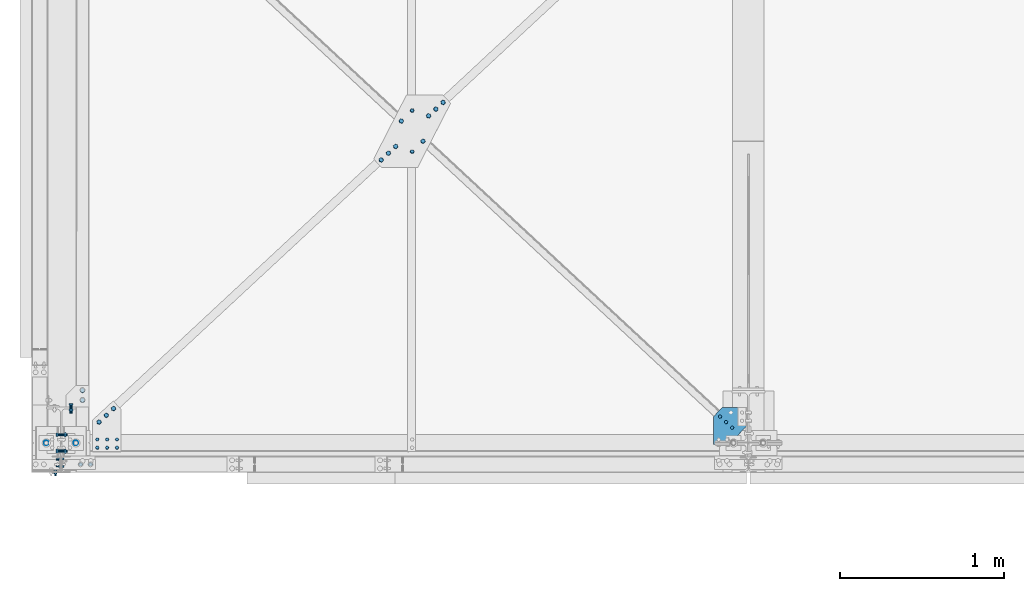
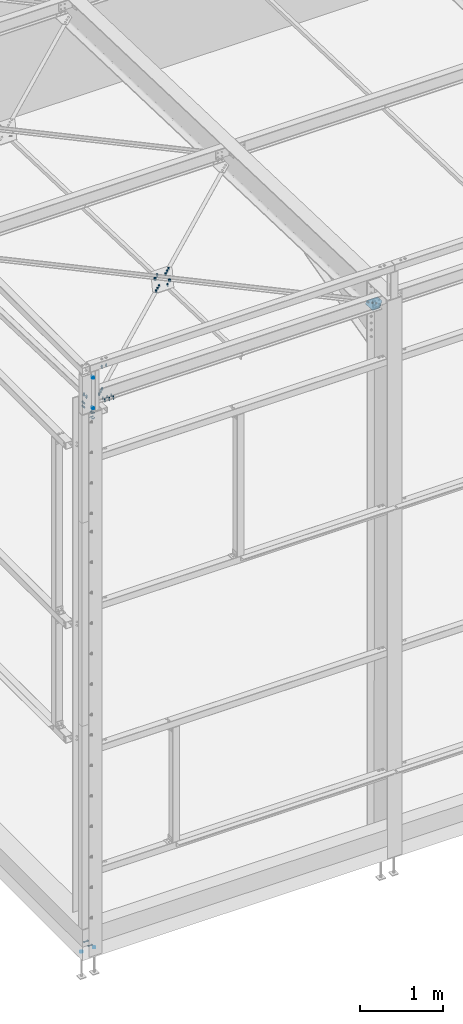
# One storey, part 141 of 362: 14 mechanical fasteners, 1 discrete accessory, 1 element without a shape of its own.
"""IFC2X3 building model written with IfcOpenShell, lengths in millimetres."""

from ifc_helpers import new_model, si_unit, frame, frame_2d, origin_with_axes, origin_2d_with_axis, place, context, subcontext, project, spatial, polyline, circle_curve, parameter, trimmed, segment, composite_curve, circle, outline, extrude, clip, halfspace, source, transform, mapped, material, type_object, element, aggregate, save


model = new_model("IFC2X3")

# Units and contexts
model_context = context("Model", 3, precision=1e-05, world=origin_with_axes())
body_context = subcontext(model_context, "Body", "Model", "MODEL_VIEW")
ifc_project = project(units=[si_unit("LENGTHUNIT", "METRE", prefix="MILLI"), si_unit("AREAUNIT", "SQUARE_METRE"), si_unit("VOLUMEUNIT", "CUBIC_METRE"), si_unit("MASSUNIT", "GRAM", prefix="KILO"), si_unit("TIMEUNIT", "SECOND"), si_unit("PLANEANGLEUNIT", "RADIAN"), si_unit("SOLIDANGLEUNIT", "STERADIAN"), si_unit("THERMODYNAMICTEMPERATUREUNIT", "DEGREE_CELSIUS"), si_unit("LUMINOUSINTENSITYUNIT", "LUMEN")], contexts=[model_context])

# Site, building, storey
site_placement = place(None, origin_with_axes())
site = spatial("IfcSite", under=ifc_project, at=site_placement, Name="Undefined", CompositionType="ELEMENT")
building_placement = place(site_placement, origin_with_axes())
building = spatial("IfcBuilding", under=site, at=building_placement, Name="Undefined", CompositionType="ELEMENT")
storey_placement = place(building_placement, origin_with_axes())
storey = spatial("IfcBuildingStorey", under=building, at=storey_placement, Name="Undefined", CompositionType="ELEMENT", Elevation=0.0)

# Mechanical fastener
ifc_material_1 = material(Name="8.8")
mechanical_fastener_type = type_object("IfcMechanicalFastenerType", Name="Bolt assembly")
shared_shape_1 = source(origin_with_axes(), body_context, "Body", "SweptSolid", [
    extrude(circle(Radius=7.0, at=origin_2d_with_axis()), frame((0.0, -3.09999932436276, 0.0), z_axis=(0.0, 1.0, 0.0), x_axis=(1.0, 0.0, 0.0)), (0.0, 0.0, 1.0), 6.1),
    extrude(circle(Radius=7.0, at=origin_2d_with_axis()), frame((0.0, -8.00253283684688, 0.0), z_axis=(0.0, 1.0, 0.0), x_axis=(1.0, 0.0, 0.0)), (0.0, 0.0, 1.0), 5.0),
    extrude(outline(polyline([(10.96965511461, 0.0), (5.484827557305, 9.50000000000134), (-5.484827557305, 9.50000000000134), (-10.96965511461, 0.0), (-5.484827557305, -9.50000000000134), (5.484827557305, -9.50000000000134), (10.96965511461, 0.0)])), frame((0.0, -16.1025328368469, 0.0), z_axis=(0.0, 1.0, 0.0), x_axis=(1.0, 0.0, 0.0)), (0.0, 0.0, 1.0), 8.0),
    extrude(circle(Radius=6.0, at=origin_2d_with_axis()), frame((0.0, -8.10253283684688, 0.0), z_axis=(0.0, 1.0, 0.0), x_axis=(1.0, 0.0, 0.0)), (0.0, 0.0, 1.0), 30.0),
    extrude(outline(polyline([(10.39230484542, 0.0), (5.19615242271, 9.00000000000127), (-5.19615242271, 9.00000000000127), (-10.39230484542, 0.0), (-5.19615242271, -9.00000000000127), (5.19615242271, -9.00000000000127), (10.39230484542, 0.0)])), frame((0.0, 3.00000067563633, 0.0), z_axis=(0.0, 1.0, 0.0), x_axis=(1.0, 0.0, 0.0)), (0.0, 0.0, 1.0), 10.8),
])
mechanical_fastener_1_placement = place(storey_placement, frame((4081.44125798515, 92.4228366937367, 7843.89354293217), z_axis=(-0.680838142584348, -0.732047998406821, 0.023772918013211), x_axis=(-0.732433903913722, 0.680479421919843, -0.0220982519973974)))
element("IfcMechanicalFastener", 1, at=mechanical_fastener_1_placement, inside=storey, type_object=mechanical_fastener_type, material=ifc_material_1, Name="Bolt assembly", NominalDiameter=12.0, NominalLength=30.0, context=body_context, shape_type="MappedRepresentation", body=[
    mapped(shared_shape_1, transform((0.0, 0.0, 0.0))),
    mapped(shared_shape_1, transform((49.9999999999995, 0.0, -3.63797880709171e-12))),
    mapped(shared_shape_1, transform((99.9999999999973, -1.63709046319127e-11, 7.73070496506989e-12))),
])

# Assembly, discrete accessory
assembly_placement = place(storey_placement, origin_with_axes())
assembly = element("IfcElementAssembly", 2, at=assembly_placement, inside=storey, Name="Steel Assembly", AssemblyPlace="NOTDEFINED", PredefinedType="RIGID_FRAME")
ifc_material_2 = material(Name="STEEL/S235J0")
discrete_accessory_type = type_object("IfcDiscreteAccessoryType", Name="GOUSSET")
discrete_accessory_placement = place(assembly_placement, frame((4172.00000000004, 102.205846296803, 7843.575843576), z_axis=(0.0, 0.0324574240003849, 0.999473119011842), x_axis=(-1.0, 0.0, 0.0)))
discrete_accessory = element("IfcDiscreteAccessory", 3, at=discrete_accessory_placement, type_object=discrete_accessory_type, material=ifc_material_2, Name="GOUSSET", ObjectType="BL225*6", context=body_context, shape_type="Clipping", body=[
    clip(clip(extrude(outline(polyline([(202.800000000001, -58.9439842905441), (153.016697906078, -112.500000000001), (0.0, -112.500000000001), (0.0, -4.43237285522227), (108.695158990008, 112.500000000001), (202.800000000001, 112.500000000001), (202.800000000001, -58.9439842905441)])), frame((0.0, 0.0, -3.0), z_axis=(0.0, 0.0, 1.0), x_axis=(1.0, 0.0, 0.0)), (0.0, 0.0, 1.0), 6.0), halfspace(frame((165.899053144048, -98.6413849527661, 2.99928702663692), z_axis=(0.732433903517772, -0.680838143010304, 0.0), x_axis=(0.680838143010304, 0.732433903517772, 2.41752786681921e-10)), False)), halfspace(frame((-103.025150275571, -115.265048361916, -3.00000000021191), z_axis=(-0.732433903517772, 0.680838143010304, 0.0), x_axis=(0.680838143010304, 0.732433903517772, 2.41752786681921e-10)), False)),
])
aggregate(assembly, [discrete_accessory])

# Mechanical fasteners
ifc_material_3 = material(Name="8.8-SB-ZINGUE")
shared_shape_2 = source(origin_with_axes(), body_context, "Body", "SweptSolid", [
    extrude(circle(Radius=7.0, at=origin_2d_with_axis()), frame((0.0, 9.40000163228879, 0.0), z_axis=(0.0, 1.0, 0.0), x_axis=(1.0, 0.0, 0.0)), (0.0, 0.0, 1.0), 4.1),
    extrude(circle(Radius=7.0, at=origin_2d_with_axis()), frame((0.0, 4.60000055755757, 0.0), z_axis=(0.0, 1.0, 0.0), x_axis=(1.0, 0.0, 0.0)), (0.0, 0.0, 1.0), 5.0),
    extrude(outline(polyline([(10.39230484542, 0.0), (5.19615242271, 9.00000000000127), (-5.19615242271, 9.00000000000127), (-10.39230484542, 0.0), (-5.19615242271, -9.00000000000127), (5.19615242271, -9.00000000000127), (10.39230484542, 0.0)])), frame((0.0, -3.41999944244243, 0.0), z_axis=(0.0, 1.0, 0.0), x_axis=(1.0, 0.0, 0.0)), (0.0, 0.0, 1.0), 7.92),
    extrude(circle(Radius=6.0, at=origin_2d_with_axis()), frame((0.0, 4.50000055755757, 0.0), z_axis=(0.0, 1.0, 0.0), x_axis=(1.0, 0.0, 0.0)), (0.0, 0.0, 1.0), 30.0),
    extrude(outline(polyline([(11.5008173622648, 0.0), (5.7504086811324, 9.96000000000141), (-5.7504086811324, 9.96000000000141), (-11.5008173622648, 0.0), (-5.7504086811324, -9.96000000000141), (5.7504086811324, -9.96000000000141), (11.5008173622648, 0.0)])), frame((0.0, 13.4999999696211, 0.0), z_axis=(0.0, 1.0, 0.0), x_axis=(1.0, 0.0, 0.0)), (0.0, 0.0, 1.0), 7.92),
])
mechanical_fastener_2_placement = place(storey_placement, frame((-34.99988495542, -166.499999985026, 8140.00301426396), z_axis=(0.0, 0.0, 1.0), x_axis=(-1.0, 0.0, 0.0)))
element("IfcMechanicalFastener", 4, at=mechanical_fastener_2_placement, inside=storey, type_object=mechanical_fastener_type, material=ifc_material_3, Name="Bolt assembly", NominalDiameter=12.0, NominalLength=30.0, context=body_context, shape_type="MappedRepresentation", body=[
    mapped(shared_shape_2, transform((0.0, 0.0, -225.0))),
    mapped(shared_shape_2, transform((0.0, 0.0, 225.0))),
])
shared_shape_3 = source(origin_with_axes(), body_context, "Body", "SweptSolid", [
    extrude(circle(Radius=7.0, at=origin_2d_with_axis()), frame((0.0, -0.0999426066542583, 0.0), z_axis=(0.0, 1.0, 0.0), x_axis=(1.0, 0.0, 0.0)), (0.0, 0.0, 1.0), 5.1),
    extrude(circle(Radius=7.0, at=origin_2d_with_axis()), frame((0.0, 0.100057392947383, 0.0), z_axis=(0.0, 1.0, 0.0), x_axis=(1.0, 0.0, 0.0)), (0.0, 0.0, 1.0), 6.0),
    extrude(outline(polyline([(10.39230484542, 0.0), (5.19615242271, 9.00000000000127), (-5.19615242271, 9.00000000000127), (-10.39230484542, 0.0), (-5.19615242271, -9.00000000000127), (5.19615242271, -9.00000000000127), (10.39230484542, 0.0)])), frame((0.0, -7.91994260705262, 0.0), z_axis=(0.0, 1.0, 0.0), x_axis=(1.0, 0.0, 0.0)), (0.0, 0.0, 1.0), 7.92),
    extrude(circle(Radius=6.0, at=origin_2d_with_axis()), frame((0.0, 6.26397177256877e-05, 0.0), z_axis=(0.0, 1.0, 0.0), x_axis=(1.0, 0.0, 0.0)), (0.0, 0.0, 1.0), 30.0),
    extrude(outline(polyline([(11.5008173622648, 0.0), (5.7504086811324, 9.96000000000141), (-5.7504086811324, 9.96000000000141), (-11.5008173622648, 0.0), (-5.7504086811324, -9.96000000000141), (5.7504086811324, -9.96000000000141), (11.5008173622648, 0.0)])), frame((0.0, 6.00005739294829, 0.0), z_axis=(0.0, 1.0, 0.0), x_axis=(1.0, 0.0, 0.0)), (0.0, 0.0, 1.0), 7.92),
])
mechanical_fastener_3_placement = place(storey_placement, frame((2135.00007400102, 1896.86424860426, 7790.29593327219), z_axis=(0.0, -0.999506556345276, 0.031410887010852), x_axis=(-1.0, 0.0, 0.0)))
element("IfcMechanicalFastener", 5, at=mechanical_fastener_3_placement, inside=storey, type_object=mechanical_fastener_type, material=ifc_material_3, Name="Bolt assembly", NominalDiameter=12.0, NominalLength=30.0, context=body_context, shape_type="MappedRepresentation", body=[
    mapped(shared_shape_3, transform((0.0, -1.17324816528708e-10, -124.999999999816))),
    mapped(shared_shape_3, transform((0.0, 1.17324816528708e-10, 124.999999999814))),
])
shared_shape_4 = source(origin_with_axes(), body_context, "Body", "SweptSolid", [
    extrude(circle(Radius=9.0, at=origin_2d_with_axis()), frame((0.0, 5.90933357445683, 0.0), z_axis=(0.0, 1.0, 0.0), x_axis=(1.0, 0.0, 0.0)), (0.0, 0.0, 1.0), 5.1),
    extrude(circle(Radius=9.0, at=origin_2d_with_axis()), frame((0.0, 0.1, 0.0), z_axis=(0.0, 1.0, 0.0), x_axis=(1.0, 0.0, 0.0)), (0.0, 0.0, 1.0), 6.0),
    extrude(outline(polyline([(13.85640646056, 0.0), (6.92820323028, 12.0000000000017), (-6.92820323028, 12.0000000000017), (-13.85640646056, 0.0), (-6.92820323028, -12.0000000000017), (6.92820323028, -12.0000000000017), (13.85640646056, 0.0)])), frame((0.0, -10.5600019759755, 0.0), z_axis=(0.0, 1.0, 0.0), x_axis=(1.0, 0.0, 0.0)), (0.0, 0.0, 1.0), 10.56),
    extrude(circle(Radius=8.0, at=origin_2d_with_axis()), frame((0.0, 0.0, 0.0), z_axis=(0.0, 1.0, 0.0), x_axis=(1.0, 0.0, 0.0)), (0.0, 0.0, 1.0), 30.0),
    extrude(outline(polyline([(15.3344231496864, 0.0), (7.6672115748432, 13.2800000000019), (-7.6672115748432, 13.2800000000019), (-15.3344231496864, 0.0), (-7.6672115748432, -13.2800000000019), (7.6672115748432, -13.2800000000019), (15.3344231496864, 0.0)])), frame((0.0, 11.0093335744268, 0.0), z_axis=(0.0, 1.0, 0.0), x_axis=(1.0, 0.0, 0.0)), (0.0, 0.0, 1.0), 10.56),
])
mechanical_fastener_4_placement = place(storey_placement, frame((2235.26634015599, 1990.02123399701, 7787.36831426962), z_axis=(-0.680837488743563, 0.73207308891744, -0.0230066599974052), x_axis=(0.732434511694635, 0.680501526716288, -0.0213859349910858)))
element("IfcMechanicalFastener", 6, at=mechanical_fastener_4_placement, inside=storey, type_object=mechanical_fastener_type, material=ifc_material_3, Name="Bolt assembly", NominalDiameter=16.0, NominalLength=30.0, context=body_context, shape_type="MappedRepresentation", body=[
    mapped(shared_shape_4, transform((0.0, 0.0, 0.0))),
    mapped(shared_shape_4, transform((60.0, 0.0, 0.0))),
    mapped(shared_shape_4, transform((120.0, 0.0, 0.0))),
])
shared_shape_5 = source(origin_with_axes(), body_context, "Body", "SweptSolid", [
    extrude(circle(Radius=9.0, at=origin_2d_with_axis()), frame((0.0, -4.89272045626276, 0.0), z_axis=(0.0, 1.0, 0.0), x_axis=(1.0, 0.0, 0.0)), (0.0, 0.0, 1.0), 5.0),
    extrude(circle(Radius=9.0, at=origin_2d_with_axis()), frame((0.0, -0.100011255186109, 0.0), z_axis=(0.0, 1.0, 0.0), x_axis=(1.0, 0.0, 0.0)), (0.0, 0.0, 1.0), 6.1),
    extrude(outline(polyline([(13.85640646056, 0.0), (6.92820323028, 12.0000000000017), (-6.92820323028, 12.0000000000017), (-13.85640646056, 0.0), (-6.92820323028, -12.0000000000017), (6.92820323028, -12.0000000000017), (13.85640646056, 0.0)])), frame((0.0, -15.5527204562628, 0.0), z_axis=(0.0, 1.0, 0.0), x_axis=(1.0, 0.0, 0.0)), (0.0, 0.0, 1.0), 10.56),
    extrude(circle(Radius=8.0, at=origin_2d_with_axis()), frame((0.0, -4.99272045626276, 0.0), z_axis=(0.0, 1.0, 0.0), x_axis=(1.0, 0.0, 0.0)), (0.0, 0.0, 1.0), 30.0),
    extrude(outline(polyline([(15.3344231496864, 0.0), (7.6672115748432, 13.2800000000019), (-7.6672115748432, 13.2800000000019), (-15.3344231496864, 0.0), (-7.6672115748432, -13.2800000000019), (7.6672115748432, -13.2800000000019), (15.3344231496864, 0.0)])), frame((0.0, 6.0, 0.0), z_axis=(0.0, 1.0, 0.0), x_axis=(1.0, 0.0, 0.0)), (0.0, 0.0, 1.0), 10.56),
])
mechanical_fastener_5_placement = place(storey_placement, frame((2135.00000157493, 1896.86423725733, 7790.29593364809), z_axis=(-0.732427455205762, 0.680509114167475, -0.0213861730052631), x_axis=(0.680845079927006, 0.732066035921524, -0.0230064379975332)))
element("IfcMechanicalFastener", 7, at=mechanical_fastener_5_placement, inside=storey, type_object=mechanical_fastener_type, material=ifc_material_3, Name="Bolt assembly", NominalDiameter=16.0, NominalLength=30.0, context=body_context, shape_type="MappedRepresentation", body=[
    mapped(shared_shape_5, transform((-8.00355337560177e-11, 1.57342583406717e-10, -90.000000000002))),
    mapped(shared_shape_5, transform((8.36735125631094e-11, -1.5825207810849e-10, 90.0))),
])
shared_shape_6 = source(origin_with_axes(), body_context, "Body", "SweptSolid", [
    extrude(circle(Radius=9.0, at=origin_2d_with_axis()), frame((0.0, 5.90918980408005, 0.0), z_axis=(0.0, 1.0, 0.0), x_axis=(1.0, 0.0, 0.0)), (0.0, 0.0, 1.0), 5.1),
    extrude(circle(Radius=9.0, at=origin_2d_with_axis()), frame((0.0, 0.1, 0.0), z_axis=(0.0, 1.0, 0.0), x_axis=(1.0, 0.0, 0.0)), (0.0, 0.0, 1.0), 6.0),
    extrude(outline(polyline([(13.85640646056, 0.0), (6.92820323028, 12.0000000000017), (-6.92820323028, 12.0000000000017), (-13.85640646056, 0.0), (-6.92820323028, -12.0000000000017), (6.92820323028, -12.0000000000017), (13.85640646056, 0.0)])), frame((0.0, -10.5600019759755, 0.0), z_axis=(0.0, 1.0, 0.0), x_axis=(1.0, 0.0, 0.0)), (0.0, 0.0, 1.0), 10.56),
    extrude(circle(Radius=8.0, at=origin_2d_with_axis()), frame((0.0, 0.0, 0.0), z_axis=(0.0, 1.0, 0.0), x_axis=(1.0, 0.0, 0.0)), (0.0, 0.0, 1.0), 30.0),
    extrude(outline(polyline([(15.3344231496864, 0.0), (7.6672115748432, 13.2800000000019), (-7.6672115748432, 13.2800000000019), (-15.3344231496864, 0.0), (-7.6672115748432, -13.2800000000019), (7.6672115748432, -13.2800000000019), (15.3344231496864, 0.0)])), frame((0.0, 11.0091898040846, 0.0), z_axis=(0.0, 1.0, 0.0), x_axis=(1.0, 0.0, 0.0)), (0.0, 0.0, 1.0), 10.56),
])
mechanical_fastener_6_placement = place(storey_placement, frame((2034.73366298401, 1803.70724054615, 7793.22355302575), z_axis=(0.680837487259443, -0.732073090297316, 0.0230066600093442), x_axis=(-0.732434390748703, -0.68050165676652, 0.0213859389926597)))
element("IfcMechanicalFastener", 8, at=mechanical_fastener_6_placement, inside=storey, type_object=mechanical_fastener_type, material=ifc_material_3, Name="Bolt assembly", NominalDiameter=16.0, NominalLength=30.0, context=body_context, shape_type="MappedRepresentation", body=[
    mapped(shared_shape_6, transform((0.0, 0.0, 0.0))),
    mapped(shared_shape_6, transform((60.0, 0.0, 0.0))),
    mapped(shared_shape_6, transform((120.0, 0.0, 0.0))),
])
shared_shape_7 = source(origin_with_axes(), body_context, "Body", "SweptSolid", [
    extrude(circle(Radius=7.0, at=origin_2d_with_axis()), frame((0.0, -8.39309251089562, 0.0), z_axis=(0.0, 1.0, 0.0), x_axis=(1.0, 0.0, 0.0)), (0.0, 0.0, 1.0), 8.5),
    extrude(circle(Radius=7.0, at=origin_2d_with_axis()), frame((0.0, -0.100011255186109, 0.0), z_axis=(0.0, 1.0, 0.0), x_axis=(1.0, 0.0, 0.0)), (0.0, 0.0, 1.0), 6.1),
    extrude(outline(polyline([(10.39230484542, 0.0), (5.19615242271, 9.00000000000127), (-5.19615242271, 9.00000000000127), (-10.39230484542, 0.0), (-5.19615242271, -9.00000000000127), (5.19615242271, -9.00000000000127), (10.39230484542, 0.0)])), frame((0.0, -16.4130925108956, 0.0), z_axis=(0.0, 1.0, 0.0), x_axis=(1.0, 0.0, 0.0)), (0.0, 0.0, 1.0), 7.92),
    extrude(circle(Radius=6.0, at=origin_2d_with_axis()), frame((0.0, -8.49309251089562, 0.0), z_axis=(0.0, 1.0, 0.0), x_axis=(1.0, 0.0, 0.0)), (0.0, 0.0, 1.0), 38.49),
    extrude(outline(polyline([(11.5008173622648, 0.0), (5.7504086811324, 9.96000000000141), (-5.7504086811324, 9.96000000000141), (-11.5008173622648, 0.0), (-5.7504086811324, -9.96000000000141), (5.7504086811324, -9.96000000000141), (11.5008173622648, 0.0)])), frame((0.0, 6.0, 0.0), z_axis=(0.0, 1.0, 0.0), x_axis=(1.0, 0.0, 0.0)), (0.0, 0.0, 1.0), 7.92),
])
mechanical_fastener_7_placement = place(storey_placement, frame((220.000002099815, -3.14090523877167, 7850.0068739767), z_axis=(3.14103090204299e-11, 0.999506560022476, -0.0314107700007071), x_axis=(1.0, 0.0, 0.0)))
element("IfcMechanicalFastener", 9, at=mechanical_fastener_7_placement, inside=storey, type_object=mechanical_fastener_type, material=ifc_material_3, Name="Bolt assembly", NominalDiameter=12.0, NominalLength=38.4931030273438, context=body_context, shape_type="MappedRepresentation", body=[
    mapped(shared_shape_7, transform((0.0, 0.0, 25.0))),
    mapped(shared_shape_7, transform((60.00000000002, -1.00044417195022e-11, 24.9999999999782))),
    mapped(shared_shape_7, transform((120.00000000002, -1.90993887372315e-11, 24.9999999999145))),
    mapped(shared_shape_7, transform((0.0, 0.0, -25.0))),
    mapped(shared_shape_7, transform((59.9999999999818, -8.18545231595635e-12, -25.0000000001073))),
    mapped(shared_shape_7, transform((119.999999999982, -1.72803993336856e-11, -25.0000000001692))),
])
shared_shape_8 = source(origin_with_axes(), body_context, "Body", "SweptSolid", [
    extrude(circle(Radius=9.0, at=origin_2d_with_axis()), frame((0.0, 2.90445197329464, 0.0), z_axis=(0.0, 1.0, 0.0), x_axis=(1.0, 0.0, 0.0)), (0.0, 0.0, 1.0), 5.1),
    extrude(circle(Radius=9.0, at=origin_2d_with_axis()), frame((0.0, -2.90345384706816, 0.0), z_axis=(0.0, 1.0, 0.0), x_axis=(1.0, 0.0, 0.0)), (0.0, 0.0, 1.0), 6.0),
    extrude(outline(polyline([(13.85640646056, 0.0), (6.92820323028, 12.0000000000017), (-6.92820323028, 12.0000000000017), (-13.85640646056, 0.0), (-6.92820323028, -12.0000000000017), (6.92820323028, -12.0000000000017), (13.85640646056, 0.0)])), frame((0.0, -13.5634538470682, 0.0), z_axis=(0.0, 1.0, 0.0), x_axis=(1.0, 0.0, 0.0)), (0.0, 0.0, 1.0), 10.56),
    extrude(circle(Radius=8.0, at=origin_2d_with_axis()), frame((0.0, -3.00345384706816, 0.0), z_axis=(0.0, 1.0, 0.0), x_axis=(1.0, 0.0, 0.0)), (0.0, 0.0, 1.0), 30.0),
    extrude(outline(polyline([(15.3344231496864, 0.0), (7.6672115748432, 13.2800000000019), (-7.6672115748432, 13.2800000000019), (-15.3344231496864, 0.0), (-7.6672115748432, -13.2800000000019), (7.6672115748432, -13.2800000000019), (15.3344231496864, 0.0)])), frame((0.0, 8.00445197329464, 0.0), z_axis=(0.0, 1.0, 0.0), x_axis=(1.0, 0.0, 0.0)), (0.0, 0.0, 1.0), 10.56),
])
mechanical_fastener_8_placement = place(storey_placement, frame((230.964192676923, 127.733116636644, 7842.88899565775), z_axis=(-0.680838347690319, 0.732072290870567, -0.0230066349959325), x_axis=(0.732433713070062, 0.680502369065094, -0.0213864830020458)))
element("IfcMechanicalFastener", 10, at=mechanical_fastener_8_placement, inside=storey, type_object=mechanical_fastener_type, material=ifc_material_3, Name="Bolt assembly", NominalDiameter=16.0, NominalLength=30.0, context=body_context, shape_type="MappedRepresentation", body=[
    mapped(shared_shape_8, transform((0.0, 0.0, 0.0))),
    mapped(shared_shape_8, transform((60.0, 0.0, 0.0))),
    mapped(shared_shape_8, transform((120.0, 0.0, 0.0))),
])
shared_shape_9 = source(origin_with_axes(), body_context, "Body", "SweptSolid", [
    extrude(circle(Radius=9.0, at=origin_2d_with_axis()), frame((0.0, -0.100011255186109, 0.0), z_axis=(0.0, 1.0, 0.0), x_axis=(1.0, 0.0, 0.0)), (0.0, 0.0, 1.0), 13.6),
    extrude(circle(Radius=9.0, at=origin_2d_with_axis()), frame((0.0, -9.9, 0.0), z_axis=(0.0, 1.0, 0.0), x_axis=(1.0, 0.0, 0.0)), (0.0, 0.0, 1.0), 10.0),
    extrude(outline(polyline([(13.85640646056, 0.0), (6.92820323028, 12.0000000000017), (-6.92820323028, 12.0000000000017), (-13.85640646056, 0.0), (-6.92820323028, -12.0000000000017), (6.92820323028, -12.0000000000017), (13.85640646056, 0.0)])), frame((0.0, -20.5600000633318, 0.0), z_axis=(0.0, 1.0, 0.0), x_axis=(1.0, 0.0, 0.0)), (0.0, 0.0, 1.0), 10.56),
    extrude(circle(Radius=8.0, at=origin_2d_with_axis()), frame((0.0, -10.0000010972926, 0.0), z_axis=(0.0, 1.0, 0.0), x_axis=(1.0, 0.0, 0.0)), (0.0, 0.0, 1.0), 50.0),
    extrude(outline(polyline([(15.3344231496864, 0.0), (7.6672115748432, 13.2800000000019), (-7.6672115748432, 13.2800000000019), (-15.3344231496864, 0.0), (-7.6672115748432, -13.2800000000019), (7.6672115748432, -13.2800000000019), (15.3344231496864, 0.0)])), frame((0.0, 13.4999999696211, 0.0), z_axis=(0.0, 1.0, 0.0), x_axis=(1.0, 0.0, 0.0)), (0.0, 0.0, 1.0), 10.56),
])
mechanical_fastener_9_placement = place(storey_placement, frame((60.0, 220.000000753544, 7662.9479844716), z_axis=(1.0, 0.0, 0.0), x_axis=(0.0, 0.0, 1.0)))
element("IfcMechanicalFastener", 11, at=mechanical_fastener_9_placement, inside=storey, type_object=mechanical_fastener_type, material=ifc_material_3, Name="Bolt assembly", NominalDiameter=16.0, NominalLength=50.0, context=body_context, shape_type="MappedRepresentation", body=[
    mapped(shared_shape_9, transform((0.0, 0.0, 0.0))),
    mapped(shared_shape_9, transform((60.0, 0.0, 0.0))),
])
shared_shape_10 = source(origin_with_axes(), body_context, "Body", "SweptSolid", [
    extrude(circle(Radius=9.0, at=origin_2d_with_axis()), frame((0.0, -3.89999843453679, 0.0), z_axis=(0.0, 1.0, 0.0), x_axis=(1.0, 0.0, 0.0)), (0.0, 0.0, 1.0), 4.0),
    extrude(circle(Radius=9.0, at=origin_2d_with_axis()), frame((0.0, -0.100011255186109, 0.0), z_axis=(0.0, 1.0, 0.0), x_axis=(1.0, 0.0, 0.0)), (0.0, 0.0, 1.0), 10.1),
    extrude(outline(polyline([(13.85640646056, 0.0), (6.92820323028, 12.0000000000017), (-6.92820323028, 12.0000000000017), (-13.85640646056, 0.0), (-6.92820323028, -12.0000000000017), (6.92820323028, -12.0000000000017), (13.85640646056, 0.0)])), frame((0.0, -14.560000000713, 0.0), z_axis=(0.0, 1.0, 0.0), x_axis=(1.0, 0.0, 0.0)), (0.0, 0.0, 1.0), 10.56),
    extrude(circle(Radius=8.0, at=origin_2d_with_axis()), frame((0.0, -3.99999923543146, 0.0), z_axis=(0.0, 1.0, 0.0), x_axis=(1.0, 0.0, 0.0)), (0.0, 0.0, 1.0), 40.0),
    extrude(outline(polyline([(15.3344231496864, 0.0), (7.6672115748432, 13.2800000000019), (-7.6672115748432, 13.2800000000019), (-15.3344231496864, 0.0), (-7.6672115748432, -13.2800000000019), (7.6672115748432, -13.2800000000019), (15.3344231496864, 0.0)])), frame((0.0, 10.0000000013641, 0.0), z_axis=(0.0, 1.0, 0.0), x_axis=(1.0, 0.0, 0.0)), (0.0, 0.0, 1.0), 10.56),
])
mechanical_fastener_10_placement = place(storey_placement, frame((130.0, 319.950656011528, 7759.80691069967), z_axis=(1.0, 0.0, 0.0), x_axis=(0.0, -0.999506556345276, 0.031410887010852)))
element("IfcMechanicalFastener", 12, at=mechanical_fastener_10_placement, inside=storey, type_object=mechanical_fastener_type, material=ifc_material_3, Name="Bolt assembly", NominalDiameter=16.0, NominalLength=40.0, context=body_context, shape_type="MappedRepresentation", body=[
    mapped(shared_shape_10, transform((0.0, 0.0, 0.0))),
    mapped(shared_shape_10, transform((60.0, 0.0, 0.0))),
])
shared_shape_11 = source(origin_with_axes(), body_context, "Body", "SweptSolid", [
    extrude(circle(Radius=7.0, at=origin_2d_with_axis()), frame((0.0, -3.89999843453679, 0.0), z_axis=(0.0, 1.0, 0.0), x_axis=(1.0, 0.0, 0.0)), (0.0, 0.0, 1.0), 4.0),
    extrude(outline(composite_curve([segment(polyline([(-7.0, 7.0), (7.0, 7.0)]), True, "CONTINUOUS"), segment(trimmed(circle_curve(frame_2d((7.0, 0.0), x_axis=(0.0, 1.0)), 7.0), [parameter(0.0)], [parameter(3.14159265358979)], False, "PARAMETER"), True, "CONTINUOUS"), segment(polyline([(7.0, -7.0), (-7.0, -7.0)]), True, "CONTINUOUS"), segment(trimmed(circle_curve(frame_2d((-7.0, 0.0), x_axis=(0.0, -1.0)), 7.0), [parameter(0.0)], [parameter(3.14159265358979)], False, "PARAMETER"), True, "DISCONTINUOUS")], self_intersect=False)), frame((0.0, -0.100011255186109, 0.0), z_axis=(0.0, 1.0, 0.0), x_axis=(1.0, 0.0, 0.0)), (0.0, 0.0, 1.0), 10.1),
    extrude(outline(polyline([(10.39230484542, 0.0), (5.19615242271, 9.00000000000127), (-5.19615242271, 9.00000000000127), (-10.39230484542, 0.0), (-5.19615242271, -9.00000000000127), (5.19615242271, -9.00000000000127), (10.39230484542, 0.0)])), frame((0.0, -11.9199984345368, 0.0), z_axis=(0.0, 1.0, 0.0), x_axis=(1.0, 0.0, 0.0)), (0.0, 0.0, 1.0), 7.92),
    extrude(circle(Radius=6.0, at=origin_2d_with_axis()), frame((0.0, -3.99999923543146, 0.0), z_axis=(0.0, 1.0, 0.0), x_axis=(1.0, 0.0, 0.0)), (0.0, 0.0, 1.0), 40.0),
    extrude(circle(Radius=10.8, at=origin_2d_with_axis()), frame((0.0, 10.0000000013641, 0.0), z_axis=(0.0, 1.0, 0.0), x_axis=(1.0, 0.0, 0.0)), (0.0, 0.0, 1.0), 3.96),
    extrude(outline(polyline([(11.5008173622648, 0.0), (5.7504086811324, 9.96000000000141), (-5.7504086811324, 9.96000000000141), (-11.5008173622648, 0.0), (-5.7504086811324, -9.96000000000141), (5.7504086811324, -9.96000000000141), (11.5008173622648, 0.0)])), frame((0.0, 13.96, 0.0), z_axis=(0.0, 1.0, 0.0), x_axis=(1.0, 0.0, 0.0)), (0.0, 0.0, 1.0), 7.92),
])
mechanical_fastener_11_placement = place(storey_placement, frame((179.000003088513, -130.000005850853, 8450.0), z_axis=(0.0, -1.0, 0.0), x_axis=(-1.0, 0.0, 0.0)))
element("IfcMechanicalFastener", 13, at=mechanical_fastener_11_placement, inside=storey, type_object=mechanical_fastener_type, material=ifc_material_3, Name="Bolt assembly", NominalDiameter=12.0, NominalLength=40.0, context=body_context, shape_type="MappedRepresentation", body=[
    mapped(shared_shape_11, transform((0.0, 0.0, 0.0))),
    mapped(shared_shape_11, transform((60.0, 0.0, 0.0))),
])
shared_shape_12 = source(origin_with_axes(), body_context, "Body", "SweptSolid", [
    extrude(circle(Radius=7.0, at=origin_2d_with_axis()), frame((0.0, -4.3000001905, 0.0), z_axis=(0.0, 1.0, 0.0), x_axis=(1.0, 0.0, 0.0)), (0.0, 0.0, 1.0), 8.6),
    extrude(circle(Radius=7.0, at=origin_2d_with_axis()), frame((0.0, -8.19999316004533, 0.0), z_axis=(0.0, 1.0, 0.0), x_axis=(1.0, 0.0, 0.0)), (0.0, 0.0, 1.0), 4.0),
    extrude(circle(Radius=7.0, at=origin_2d_with_axis()), frame((0.0, 4.20000787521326, 0.0), z_axis=(0.0, 1.0, 0.0), x_axis=(1.0, 0.0, 0.0)), (0.0, 0.0, 1.0), 4.1),
    extrude(outline(polyline([(10.39230484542, 0.0), (5.19615242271, 9.00000000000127), (-5.19615242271, 9.00000000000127), (-10.39230484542, 0.0), (-5.19615242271, -9.00000000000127), (5.19615242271, -9.00000000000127), (10.39230484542, 0.0)])), frame((0.0, -16.2199931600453, 0.0), z_axis=(0.0, 1.0, 0.0), x_axis=(1.0, 0.0, 0.0)), (0.0, 0.0, 1.0), 7.92),
    extrude(circle(Radius=6.0, at=origin_2d_with_axis()), frame((0.0, -8.29999554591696, 0.0), z_axis=(0.0, 1.0, 0.0), x_axis=(1.0, 0.0, 0.0)), (0.0, 0.0, 1.0), 40.0),
    extrude(outline(polyline([(11.5008173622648, 0.0), (5.7504086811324, 9.96000000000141), (-5.7504086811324, 9.96000000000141), (-11.5008173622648, 0.0), (-5.7504086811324, -9.96000000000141), (5.7504086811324, -9.96000000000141), (11.5008173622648, 0.0)])), frame((0.0, 8.30000787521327, 0.0), z_axis=(0.0, 1.0, 0.0), x_axis=(1.0, 0.0, 0.0)), (0.0, 0.0, 1.0), 7.92),
])
mechanical_fastener_12_placement = place(storey_placement, frame((7.68471326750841e-06, -120.000001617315, 7725.00301431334), z_axis=(0.0, -1.0, 0.0), x_axis=(0.0, 0.0, 1.0)))
element("IfcMechanicalFastener", 14, at=mechanical_fastener_12_placement, inside=storey, type_object=mechanical_fastener_type, material=ifc_material_3, Name="Bolt assembly", NominalDiameter=12.0, NominalLength=40.0, context=body_context, shape_type="MappedRepresentation", body=[
    mapped(shared_shape_12, transform((1.70530256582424e-12, 0.0, -20.0))),
    mapped(shared_shape_12, transform((80.0, 0.0, -20.0))),
    mapped(shared_shape_12, transform((-1.70530256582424e-12, 0.0, 20.0))),
    mapped(shared_shape_12, transform((80.0, 0.0, 20.0))),
])
ifc_material_4 = material(Name="6.8")
shared_shape_13 = source(origin_with_axes(), body_context, "Body", "SweptSolid", [
    extrude(circle(Radius=13.0, at=origin_2d_with_axis()), frame((0.0, 0.0, 0.0), z_axis=(0.0, 1.0, 0.0), x_axis=(1.0, 0.0, 0.0)), (0.0, 0.0, 1.0), 10.1),
])
mechanical_fastener_13_placement = place(storey_placement, frame((0.0, 0.0, -200.0), z_axis=(-1.0, 0.0, 0.0), x_axis=(0.0, 1.0, 0.0)))
element("IfcMechanicalFastener", 15, at=mechanical_fastener_13_placement, inside=storey, type_object=mechanical_fastener_type, material=ifc_material_4, Name="Bolt assembly", NominalDiameter=24.0, NominalLength=10.0, context=body_context, shape_type="MappedRepresentation", body=[
    mapped(shared_shape_13, transform((-8.00355337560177e-11, 1.57342583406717e-10, -90.000000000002))),
    mapped(shared_shape_13, transform((8.36735125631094e-11, -1.5825207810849e-10, 90.0))),
])
shared_shape_14 = source(origin_with_axes(), body_context, "Body", "SweptSolid", [
    extrude(circle(Radius=9.0, at=origin_2d_with_axis()), frame((0.0, -4.29715063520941, 0.0), z_axis=(0.0, 1.0, 0.0), x_axis=(1.0, 0.0, 0.0)), (0.0, 0.0, 1.0), 8.6),
    extrude(circle(Radius=9.0, at=origin_2d_with_axis()), frame((0.0, -19.9, 0.0), z_axis=(0.0, 1.0, 0.0), x_axis=(1.0, 0.0, 0.0)), (0.0, 0.0, 1.0), 15.0),
    extrude(circle(Radius=9.0, at=origin_2d_with_axis()), frame((0.0, 4.9000000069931, 0.0), z_axis=(0.0, 1.0, 0.0), x_axis=(1.0, 0.0, 0.0)), (0.0, 0.0, 1.0), 15.1),
    extrude(outline(polyline([(13.85640646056, 0.0), (6.92820323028, 12.0000000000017), (-6.92820323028, 12.0000000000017), (-13.85640646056, 0.0), (-6.92820323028, -12.0000000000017), (6.92820323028, -12.0000000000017), (13.85640646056, 0.0)])), frame((0.0, -30.56, 0.0), z_axis=(0.0, 1.0, 0.0), x_axis=(1.0, 0.0, 0.0)), (0.0, 0.0, 1.0), 10.56),
    extrude(circle(Radius=8.0, at=origin_2d_with_axis()), frame((0.0, -20.0, 0.0), z_axis=(0.0, 1.0, 0.0), x_axis=(1.0, 0.0, 0.0)), (0.0, 0.0, 1.0), 60.0),
    extrude(outline(polyline([(15.3344231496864, 0.0), (7.6672115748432, 13.2800000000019), (-7.6672115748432, 13.2800000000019), (-15.3344231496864, 0.0), (-7.6672115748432, -13.2800000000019), (7.6672115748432, -13.2800000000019), (15.3344231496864, 0.0)])), frame((0.0, 20.0, 0.0), z_axis=(0.0, 1.0, 0.0), x_axis=(1.0, 0.0, 0.0)), (0.0, 0.0, 1.0), 10.56),
])
mechanical_fastener_14_placement = place(storey_placement, frame((-0.00284955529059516, 0.0, -115.0), z_axis=(0.0, -1.0, 0.0), x_axis=(0.0, 0.0, -1.0)))
element("IfcMechanicalFastener", 16, at=mechanical_fastener_14_placement, inside=storey, type_object=mechanical_fastener_type, material=ifc_material_3, Name="Bolt assembly", NominalDiameter=16.0, NominalLength=60.0, context=body_context, shape_type="MappedRepresentation", body=[
    mapped(shared_shape_14, transform((0.0, 0.0, 50.0))),
    mapped(shared_shape_14, transform((0.0, 0.0, -50.0))),
])

save(model, "model.ifc")
